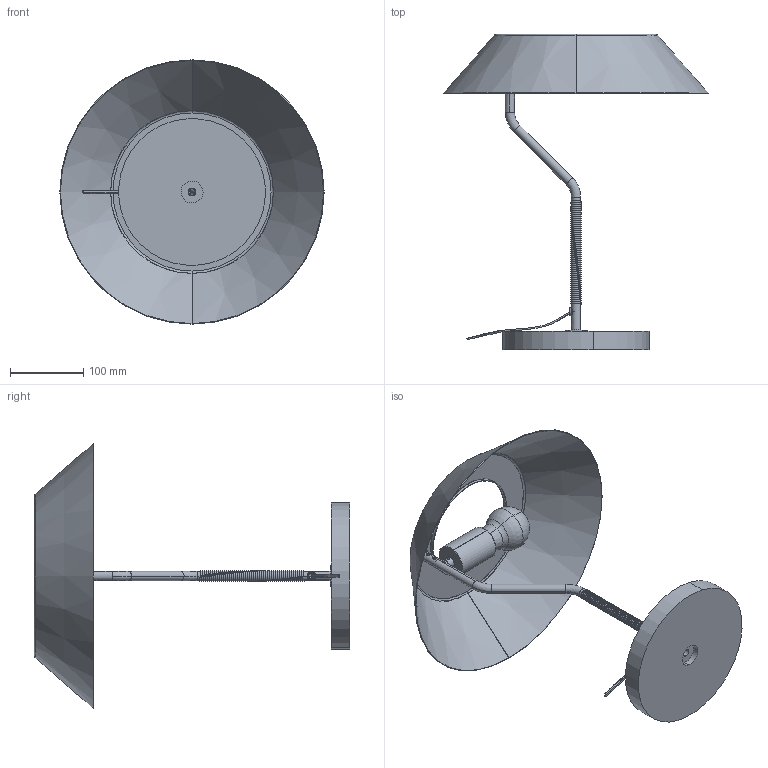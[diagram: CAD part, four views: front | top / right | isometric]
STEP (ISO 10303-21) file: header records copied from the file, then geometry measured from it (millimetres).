
FILE_DESCRIPTION (( 'STEP AP214' ), '1' );
FILE_NAME ('S1287_AIDER.STEP', '2024-01-24T14:56:36', ( '' ), ( '' ), 'SwSTEP 2.0', 'SolidWorks 2018', '' );
FILE_SCHEMA (( 'AUTOMOTIVE_DESIGN' ));
Length unit declared in the file: millimetre
Products named in the file (2): S1287_AIDER
Bounding box: 360 x 430.01 x 360 mm (x, y, z)
Volume: 1086995.3 mm3; surface area: 397139.6 mm2
Topology: 11 solids, 11 shells, 314 faces, 815 edges, 522 vertices
Faces by surface type: cylinder 193, torus 44, plane 42, cone 18, bspline 13, sphere 4
Entity records: 24118 total; most frequent: CARTESIAN_POINT 13567, ORIENTED_EDGE 1624, DIRECTION 1315, EDGE_CURVE 812, AXIS2_PLACEMENT_3D 534, VERTEX_POINT 521, EDGE_LOOP 347, UNCERTAINTY_MEASURE_WITH_UNIT 327
